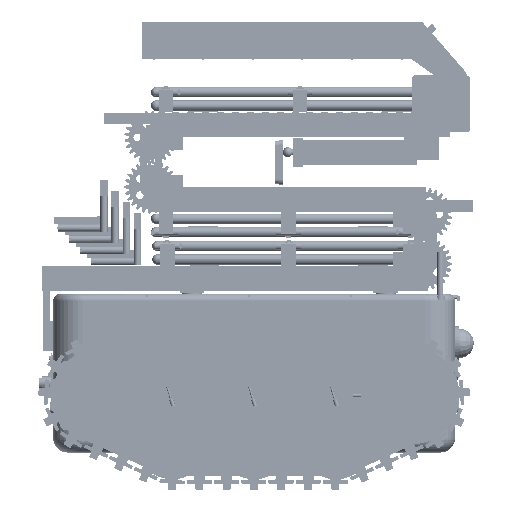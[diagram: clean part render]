
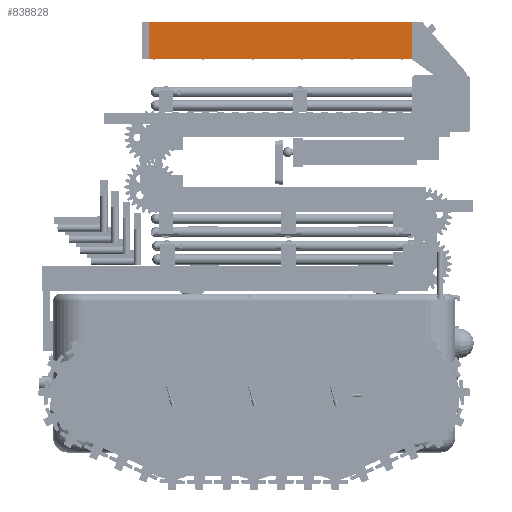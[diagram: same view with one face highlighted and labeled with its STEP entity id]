
A CAD part, front view. The second image highlights one B-rep face of the part: STEP entity #838828.
In plain terms, the highlighted planar face has unit normal (0, -1, 0).
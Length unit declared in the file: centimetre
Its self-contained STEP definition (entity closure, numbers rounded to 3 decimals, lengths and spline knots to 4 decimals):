
#838321 = VERTEX_POINT('',#838322);
#838322 = CARTESIAN_POINT('',(15.762,-45.5,-24.9913));
#838331 = PLANE('',#838332);
#838332 = AXIS2_PLACEMENT_3D('',#838333,#838334,#838335);
#838333 = CARTESIAN_POINT('',(6.0353,-45.5,-24.9913));
#838334 = DIRECTION('',(0.,0.,1.));
#838335 = DIRECTION('',(0.,1.,0.));
#838342 = PLANE('',#838343);
#838343 = AXIS2_PLACEMENT_3D('',#838344,#838345,#838346);
#838344 = CARTESIAN_POINT('',(127.8156,-60.,-153.8942));
#838345 = DIRECTION('',(0.755,0.,0.656));
#838346 = DIRECTION('',(-0.656,0.,0.755));
#838353 = EDGE_CURVE('',#838321,#838354,#838356,.T.);
#838354 = VERTEX_POINT('',#838355);
#838355 = CARTESIAN_POINT('',(126.0353,-45.5,-24.9913));
#838356 = SURFACE_CURVE('',#838357,(#838361,#838368),.PCURVE_S1.);
#838357 = LINE('',#838358,#838359);
#838358 = CARTESIAN_POINT('',(6.0353,-45.5,-24.9913));
#838359 = VECTOR('',#838360,0.1);
#838360 = DIRECTION('',(1.,0.,0.));
#838361 = PCURVE('',#838331,#838362);
#838362 = DEFINITIONAL_REPRESENTATION('',(#838363),#838367);
#838363 = LINE('',#838364,#838365);
#838364 = CARTESIAN_POINT('',(0.,0.));
#838365 = VECTOR('',#838366,1.);
#838366 = DIRECTION('',(0.,-1.));
#838367 = ( GEOMETRIC_REPRESENTATION_CONTEXT(2) 
PARAMETRIC_REPRESENTATION_CONTEXT() REPRESENTATION_CONTEXT('2D SPACE',''
  ) );
#838368 = PCURVE('',#838369,#838374);
#838369 = PLANE('',#838370);
#838370 = AXIS2_PLACEMENT_3D('',#838371,#838372,#838373);
#838371 = CARTESIAN_POINT('',(6.0353,-45.5,-9.9913));
#838372 = DIRECTION('',(-0.,1.,0.));
#838373 = DIRECTION('',(0.,0.,-1.));
#838374 = DEFINITIONAL_REPRESENTATION('',(#838375),#838379);
#838375 = LINE('',#838376,#838377);
#838376 = CARTESIAN_POINT('',(15.,0.));
#838377 = VECTOR('',#838378,1.);
#838378 = DIRECTION('',(0.,-1.));
#838379 = ( GEOMETRIC_REPRESENTATION_CONTEXT(2) 
PARAMETRIC_REPRESENTATION_CONTEXT() REPRESENTATION_CONTEXT('2D SPACE',''
  ) );
#838397 = PLANE('',#838398);
#838398 = AXIS2_PLACEMENT_3D('',#838399,#838400,#838401);
#838399 = CARTESIAN_POINT('',(126.0353,-44.,-17.4913));
#838400 = DIRECTION('',(1.,0.,0.));
#838401 = DIRECTION('',(-0.,0.,1.));
#838438 = EDGE_CURVE('',#838439,#838321,#838441,.T.);
#838439 = VERTEX_POINT('',#838440);
#838440 = CARTESIAN_POINT('',(6.0353,-45.5,-13.8019));
#838441 = SURFACE_CURVE('',#838442,(#838446,#838452),.PCURVE_S1.);
#838442 = LINE('',#838443,#838444);
#838443 = CARTESIAN_POINT('',(65.982,-45.5,-82.7628));
#838444 = VECTOR('',#838445,0.1);
#838445 = DIRECTION('',(0.656,0.,-0.755));
#838446 = PCURVE('',#838342,#838447);
#838447 = DEFINITIONAL_REPRESENTATION('',(#838448),#838451);
#838448 = B_SPLINE_CURVE_WITH_KNOTS('',1,(#838449,#838450),
  .UNSPECIFIED.,.F.,.F.,(2,2),(-913.7408,-765.4802),
  .PIECEWISE_BEZIER_KNOTS.);
#838449 = CARTESIAN_POINT('',(185.624,-14.5));
#838450 = CARTESIAN_POINT('',(170.798,-14.5));
#838451 = ( GEOMETRIC_REPRESENTATION_CONTEXT(2) 
PARAMETRIC_REPRESENTATION_CONTEXT() REPRESENTATION_CONTEXT('2D SPACE',''
  ) );
#838452 = PCURVE('',#838369,#838453);
#838453 = DEFINITIONAL_REPRESENTATION('',(#838454),#838457);
#838454 = B_SPLINE_CURVE_WITH_KNOTS('',1,(#838455,#838456),
  .UNSPECIFIED.,.F.,.F.,(2,2),(-913.7408,-765.4802),
  .PIECEWISE_BEZIER_KNOTS.);
#838455 = CARTESIAN_POINT('',(3.811,0.));
#838456 = CARTESIAN_POINT('',(15.,-9.727));
#838457 = ( GEOMETRIC_REPRESENTATION_CONTEXT(2) 
PARAMETRIC_REPRESENTATION_CONTEXT() REPRESENTATION_CONTEXT('2D SPACE',''
  ) );
#838496 = PLANE('',#838497);
#838497 = AXIS2_PLACEMENT_3D('',#838498,#838499,#838500);
#838498 = CARTESIAN_POINT('',(6.0353,-44.,-17.4913));
#838499 = DIRECTION('',(1.,0.,0.));
#838500 = DIRECTION('',(-0.,0.,1.));
#838648 = PLANE('',#838649);
#838649 = AXIS2_PLACEMENT_3D('',#838650,#838651,#838652);
#838650 = CARTESIAN_POINT('',(6.0353,-42.5,-9.9913));
#838651 = DIRECTION('',(0.,0.,-1.));
#838652 = DIRECTION('',(0.,-1.,0.));
#838687 = VERTEX_POINT('',#838688);
#838688 = CARTESIAN_POINT('',(126.0353,-45.5,-9.9913));
#838709 = EDGE_CURVE('',#838687,#838354,#838710,.T.);
#838710 = SURFACE_CURVE('',#838711,(#838715,#838722),.PCURVE_S1.);
#838711 = LINE('',#838712,#838713);
#838712 = CARTESIAN_POINT('',(126.0353,-45.5,-9.9913));
#838713 = VECTOR('',#838714,0.1);
#838714 = DIRECTION('',(0.,0.,-1.));
#838715 = PCURVE('',#838397,#838716);
#838716 = DEFINITIONAL_REPRESENTATION('',(#838717),#838721);
#838717 = LINE('',#838718,#838719);
#838718 = CARTESIAN_POINT('',(7.5,1.5));
#838719 = VECTOR('',#838720,1.);
#838720 = DIRECTION('',(-1.,0.));
#838721 = ( GEOMETRIC_REPRESENTATION_CONTEXT(2) 
PARAMETRIC_REPRESENTATION_CONTEXT() REPRESENTATION_CONTEXT('2D SPACE',''
  ) );
#838722 = PCURVE('',#838369,#838723);
#838723 = DEFINITIONAL_REPRESENTATION('',(#838724),#838728);
#838724 = LINE('',#838725,#838726);
#838725 = CARTESIAN_POINT('',(0.,-120.));
#838726 = VECTOR('',#838727,1.);
#838727 = DIRECTION('',(1.,0.));
#838728 = ( GEOMETRIC_REPRESENTATION_CONTEXT(2) 
PARAMETRIC_REPRESENTATION_CONTEXT() REPRESENTATION_CONTEXT('2D SPACE',''
  ) );
#838828 = ADVANCED_FACE('',(#838829,#838878),#838369,.F.);
#838829 = FACE_BOUND('',#838830,.F.);
#838830 = EDGE_LOOP('',(#838831,#838854,#838875,#838876,#838877));
#838831 = ORIENTED_EDGE('',*,*,#838832,.F.);
#838832 = EDGE_CURVE('',#838833,#838439,#838835,.T.);
#838833 = VERTEX_POINT('',#838834);
#838834 = CARTESIAN_POINT('',(6.0353,-45.5,-9.9913));
#838835 = SURFACE_CURVE('',#838836,(#838840,#838847),.PCURVE_S1.);
#838836 = LINE('',#838837,#838838);
#838837 = CARTESIAN_POINT('',(6.0353,-45.5,-9.9913));
#838838 = VECTOR('',#838839,0.1);
#838839 = DIRECTION('',(0.,0.,-1.));
#838840 = PCURVE('',#838369,#838841);
#838841 = DEFINITIONAL_REPRESENTATION('',(#838842),#838846);
#838842 = LINE('',#838843,#838844);
#838843 = CARTESIAN_POINT('',(0.,0.));
#838844 = VECTOR('',#838845,1.);
#838845 = DIRECTION('',(1.,0.));
#838846 = ( GEOMETRIC_REPRESENTATION_CONTEXT(2) 
PARAMETRIC_REPRESENTATION_CONTEXT() REPRESENTATION_CONTEXT('2D SPACE',''
  ) );
#838847 = PCURVE('',#838496,#838848);
#838848 = DEFINITIONAL_REPRESENTATION('',(#838849),#838853);
#838849 = LINE('',#838850,#838851);
#838850 = CARTESIAN_POINT('',(7.5,1.5));
#838851 = VECTOR('',#838852,1.);
#838852 = DIRECTION('',(-1.,0.));
#838853 = ( GEOMETRIC_REPRESENTATION_CONTEXT(2) 
PARAMETRIC_REPRESENTATION_CONTEXT() REPRESENTATION_CONTEXT('2D SPACE',''
  ) );
#838854 = ORIENTED_EDGE('',*,*,#838855,.T.);
#838855 = EDGE_CURVE('',#838833,#838687,#838856,.T.);
#838856 = SURFACE_CURVE('',#838857,(#838861,#838868),.PCURVE_S1.);
#838857 = LINE('',#838858,#838859);
#838858 = CARTESIAN_POINT('',(6.0353,-45.5,-9.9913));
#838859 = VECTOR('',#838860,0.1);
#838860 = DIRECTION('',(1.,0.,0.));
#838861 = PCURVE('',#838369,#838862);
#838862 = DEFINITIONAL_REPRESENTATION('',(#838863),#838867);
#838863 = LINE('',#838864,#838865);
#838864 = CARTESIAN_POINT('',(0.,0.));
#838865 = VECTOR('',#838866,1.);
#838866 = DIRECTION('',(0.,-1.));
#838867 = ( GEOMETRIC_REPRESENTATION_CONTEXT(2) 
PARAMETRIC_REPRESENTATION_CONTEXT() REPRESENTATION_CONTEXT('2D SPACE',''
  ) );
#838868 = PCURVE('',#838648,#838869);
#838869 = DEFINITIONAL_REPRESENTATION('',(#838870),#838874);
#838870 = LINE('',#838871,#838872);
#838871 = CARTESIAN_POINT('',(3.,0.));
#838872 = VECTOR('',#838873,1.);
#838873 = DIRECTION('',(0.,-1.));
#838874 = ( GEOMETRIC_REPRESENTATION_CONTEXT(2) 
PARAMETRIC_REPRESENTATION_CONTEXT() REPRESENTATION_CONTEXT('2D SPACE',''
  ) );
#838875 = ORIENTED_EDGE('',*,*,#838709,.T.);
#838876 = ORIENTED_EDGE('',*,*,#838353,.F.);
#838877 = ORIENTED_EDGE('',*,*,#838438,.F.);
#838878 = FACE_BOUND('',#838879,.F.);
#838879 = EDGE_LOOP('',(#838880));
#838880 = ORIENTED_EDGE('',*,*,#838881,.T.);
#838881 = EDGE_CURVE('',#838882,#838882,#838884,.T.);
#838882 = VERTEX_POINT('',#838883);
#838883 = CARTESIAN_POINT('',(15.8353,-45.5,-15.9913));
#838884 = SURFACE_CURVE('',#838885,(#838890,#838901),.PCURVE_S1.);
#838885 = CIRCLE('',#838886,0.8);
#838886 = AXIS2_PLACEMENT_3D('',#838887,#838888,#838889);
#838887 = CARTESIAN_POINT('',(15.0353,-45.5,-15.9913));
#838888 = DIRECTION('',(-0.,-1.,0.));
#838889 = DIRECTION('',(1.,-0.,0.));
#838890 = PCURVE('',#838369,#838891);
#838891 = DEFINITIONAL_REPRESENTATION('',(#838892),#838900);
#838892 = ( BOUNDED_CURVE() B_SPLINE_CURVE(2,(#838893,#838894,#838895,
    #838896,#838897,#838898,#838899),.UNSPECIFIED.,.T.,.F.) 
B_SPLINE_CURVE_WITH_KNOTS((1,2,2,2,2,1),(-2.0944,0.,
    2.0944,4.1888,6.2832,8.3776),
.UNSPECIFIED.) CURVE() GEOMETRIC_REPRESENTATION_ITEM() 
RATIONAL_B_SPLINE_CURVE((1.,0.5,1.,0.5,1.,0.5,1.)) REPRESENTATION_ITEM(
  '') );
#838893 = CARTESIAN_POINT('',(6.,-9.8));
#838894 = CARTESIAN_POINT('',(4.614,-9.8));
#838895 = CARTESIAN_POINT('',(5.307,-8.6));
#838896 = CARTESIAN_POINT('',(6.,-7.4));
#838897 = CARTESIAN_POINT('',(6.693,-8.6));
#838898 = CARTESIAN_POINT('',(7.386,-9.8));
#838899 = CARTESIAN_POINT('',(6.,-9.8));
#838900 = ( GEOMETRIC_REPRESENTATION_CONTEXT(2) 
PARAMETRIC_REPRESENTATION_CONTEXT() REPRESENTATION_CONTEXT('2D SPACE',''
  ) );
#838901 = PCURVE('',#838902,#838907);
#838902 = CYLINDRICAL_SURFACE('',#838903,0.8);
#838903 = AXIS2_PLACEMENT_3D('',#838904,#838905,#838906);
#838904 = CARTESIAN_POINT('',(15.0353,-48.5,-15.9913));
#838905 = DIRECTION('',(-0.,-1.,-0.));
#838906 = DIRECTION('',(1.,0.,0.));
#838907 = DEFINITIONAL_REPRESENTATION('',(#838908),#838912);
#838908 = LINE('',#838909,#838910);
#838909 = CARTESIAN_POINT('',(0.,-3.));
#838910 = VECTOR('',#838911,1.);
#838911 = DIRECTION('',(1.,0.));
#838912 = ( GEOMETRIC_REPRESENTATION_CONTEXT(2) 
PARAMETRIC_REPRESENTATION_CONTEXT() REPRESENTATION_CONTEXT('2D SPACE',''
  ) );
